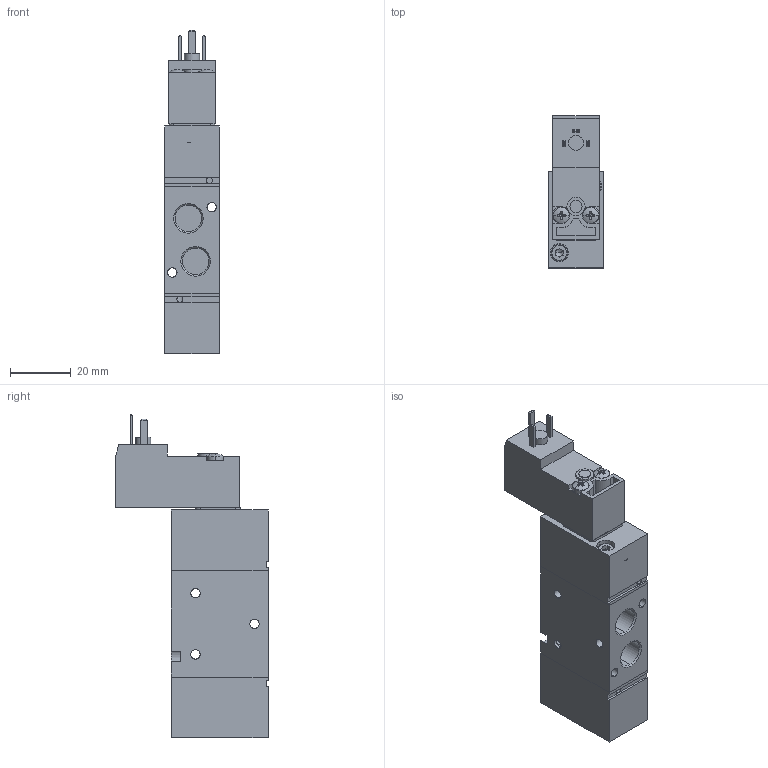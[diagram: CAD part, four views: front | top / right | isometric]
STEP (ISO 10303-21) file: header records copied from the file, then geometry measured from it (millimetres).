
FILE_DESCRIPTION (( 'STEP AP214' ), '1' );
FILE_NAME ('05_022_4.STEP', '2016-02-18T11:20:12', ( '' ), ( '' ), 'SwSTEP 2.0', 'SolidWorks 2016', '' );
FILE_SCHEMA (( 'AUTOMOTIVE_DESIGN' ));
Length unit declared in the file: millimetre
Products named in the file (1): 05_022_4
Bounding box: 18 x 50.3 x 106.8 mm (x, y, z)
Volume: 52196.4 mm3; surface area: 19078.3 mm2
Topology: 10 solids, 10 shells, 1268 faces, 3275 edges, 2034 vertices
Faces by surface type: cone 640, cylinder 387, plane 213, torus 20, sphere 8
Entity records: 40385 total; most frequent: DIRECTION 7565, CARTESIAN_POINT 6967, ORIENTED_EDGE 6506, EDGE_CURVE 3253, AXIS2_PLACEMENT_3D 3092, VERTEX_POINT 2028, CIRCLE 1823, VECTOR 1381
